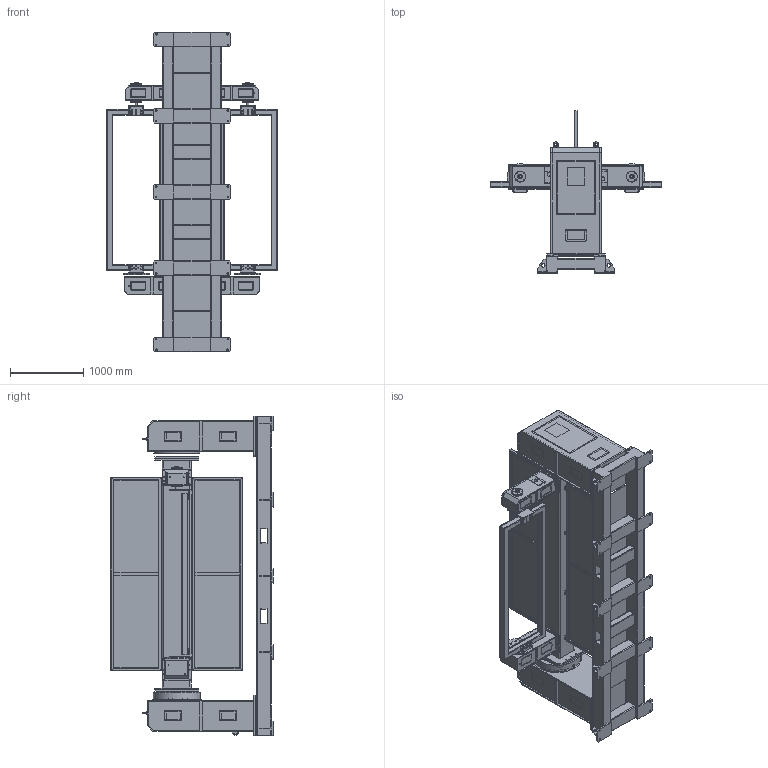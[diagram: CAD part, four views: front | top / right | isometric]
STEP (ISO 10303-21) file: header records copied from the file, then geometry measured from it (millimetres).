
FILE_DESCRIPTION (( 'STEP AP203' ), '1' );
FILE_NAME ('AUT-TWP-C-500-1#.STEP', '2020-09-11T01:17:01', ( 'Microsoft' ), ( 'Microsoft' ), 'SwSTEP 2.0', 'SolidWorks 2016', '' );
FILE_SCHEMA (( 'CONFIG_CONTROL_DESIGN' ));
Products named in the file (1): AUT-TWP-C-500-1#
Bounding box: 2322 x 2211 x 4360 mm (x, y, z)
Surface area: 46273157.7 mm2 (no closed solid volume)
Topology: 0 solids, 131 shells, 1434 faces, 5751 edges, 4290 vertices
Faces by surface type: plane 971, cylinder 416, cone 26, torus 11, bspline 10
Full cylindrical faces by diameter (mm): 4.4 x2, 6.6 x24, 9 x12, 10 x4, 10.2 x14, 11 x25, 12 x50, 13 x10, 14 x24, 16 x8, 17.5 x10, 18 x8, 20 x1, 22 x13, 30 x7, 40 x2, 42 x2, 50 x2, 55 x10, 150 x12, 360 x2, 440 x1, 510 x1, 602 x1, 625 x2, 645 x1, 675 x1
Entity records: 62464 total; most frequent: CARTESIAN_POINT 15358, DIRECTION 9564, ORIENTED_EDGE 7873, EDGE_CURVE 5299, VERTEX_POINT 4124, LINE 3532, VECTOR 3532, AXIS2_PLACEMENT_3D 3016
